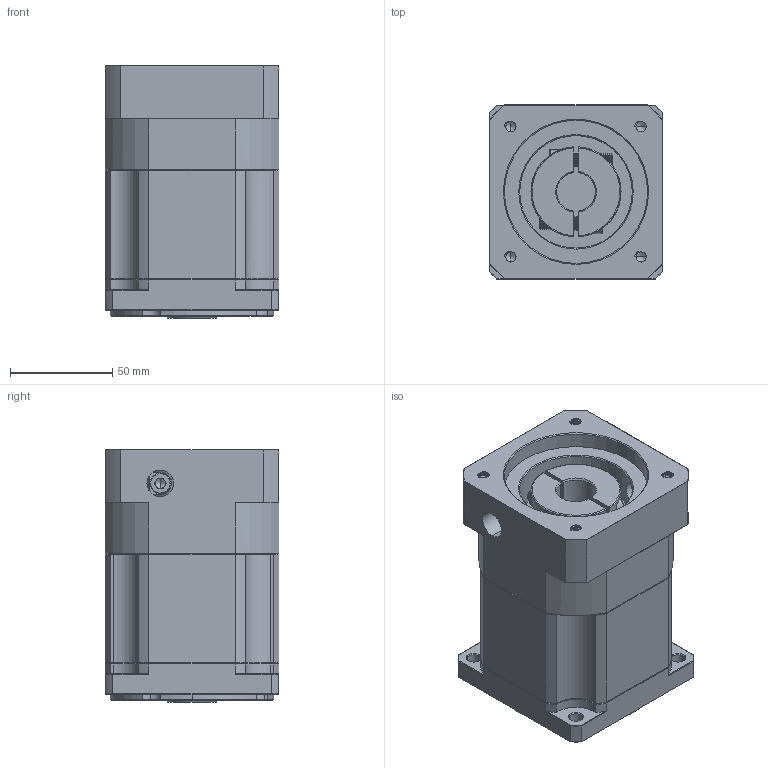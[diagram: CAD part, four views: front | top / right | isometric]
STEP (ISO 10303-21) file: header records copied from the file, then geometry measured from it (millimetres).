
FILE_DESCRIPTION (( 'STEP AP214' ), '1' );
FILE_NAME ('ZB90-K15-L2-19-70-90-M6.STEP', '2022-05-02T15:45:52', ( '' ), ( 'Microsoft' ), 'SwSTEP 2.0', 'SolidWorks 2016', '' );
FILE_SCHEMA (( 'AUTOMOTIVE_DESIGN' ));
Length unit declared in the file: millimetre
Products named in the file (1): ZB90-K15-L2-19-70-90-M6
Bounding box: 85 x 85 x 123.5 mm (x, y, z)
Volume: 711968.5 mm3; surface area: 89325.2 mm2
Topology: 4 solids, 4 shells, 1851 faces, 4873 edges, 3098 vertices
Faces by surface type: plane 869, cylinder 352, cone 313, bspline 307, torus 10
Entity records: 98208 total; most frequent: CARTESIAN_POINT 34688, ORIENTED_EDGE 9706, DIRECTION 7829, EDGE_CURVE 4853, VERTEX_POINT 3098, VECTOR 3027, LINE 3027, AXIS2_PLACEMENT_3D 2401
